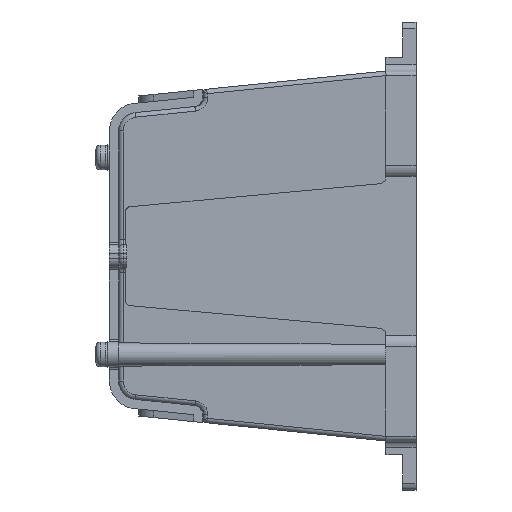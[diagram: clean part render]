
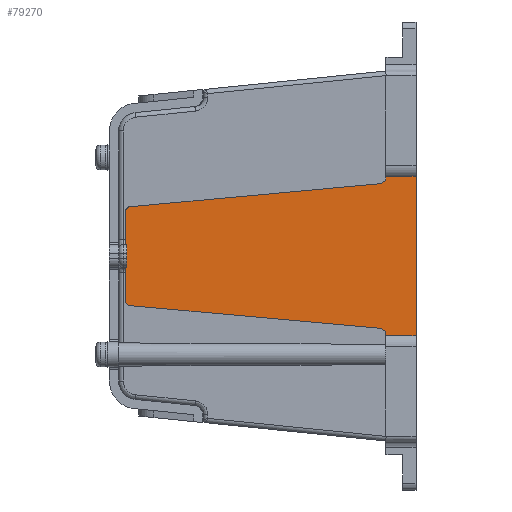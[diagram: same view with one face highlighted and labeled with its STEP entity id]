
A CAD part, left-side view. The second image highlights one B-rep face of the part: STEP entity #79270.
In plain terms, the highlighted planar face has unit normal (-1, 0, 0).
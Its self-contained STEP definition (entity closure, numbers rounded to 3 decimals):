
#2408=CIRCLE('',#83082,1.5);
#2409=CIRCLE('',#83086,1.);
#2416=CIRCLE('',#83138,1.);
#2417=CIRCLE('',#83142,1.5);
#11633=ORIENTED_EDGE('',*,*,#26116,.F.);
#11634=ORIENTED_EDGE('',*,*,#26117,.T.);
#11635=ORIENTED_EDGE('',*,*,#24835,.F.);
#11636=ORIENTED_EDGE('',*,*,#24841,.F.);
#11637=ORIENTED_EDGE('',*,*,#24844,.F.);
#11638=ORIENTED_EDGE('',*,*,#24847,.F.);
#11639=ORIENTED_EDGE('',*,*,#26118,.F.);
#11640=ORIENTED_EDGE('',*,*,#24851,.F.);
#11641=ORIENTED_EDGE('',*,*,#24684,.F.);
#11642=ORIENTED_EDGE('',*,*,#24679,.F.);
#11643=ORIENTED_EDGE('',*,*,#24768,.F.);
#11644=ORIENTED_EDGE('',*,*,#24770,.F.);
#11645=ORIENTED_EDGE('',*,*,#24773,.F.);
#11646=ORIENTED_EDGE('',*,*,#24776,.F.);
#11647=ORIENTED_EDGE('',*,*,#24781,.F.);
#11648=ORIENTED_EDGE('',*,*,#26119,.F.);
#24679=EDGE_CURVE('',#32454,#32452,#37618,.T.);
#24684=EDGE_CURVE('',#32452,#32457,#37621,.T.);
#24768=EDGE_CURVE('',#32510,#32454,#37674,.T.);
#24770=EDGE_CURVE('',#32512,#32510,#2408,.T.);
#24773=EDGE_CURVE('',#32514,#32512,#37677,.T.);
#24776=EDGE_CURVE('',#32516,#32514,#2409,.T.);
#24781=EDGE_CURVE('',#32519,#32516,#37682,.T.);
#24835=EDGE_CURVE('',#32549,#32550,#37711,.T.);
#24841=EDGE_CURVE('',#32555,#32549,#2416,.T.);
#24844=EDGE_CURVE('',#32557,#32555,#37717,.T.);
#24847=EDGE_CURVE('',#32559,#32557,#2417,.T.);
#24851=EDGE_CURVE('',#32457,#32561,#37721,.T.);
#26116=EDGE_CURVE('',#33430,#33431,#38546,.T.);
#26117=EDGE_CURVE('',#33430,#32550,#38547,.T.);
#26118=EDGE_CURVE('',#32561,#32559,#38548,.T.);
#26119=EDGE_CURVE('',#33431,#32519,#38549,.T.);
#32452=VERTEX_POINT('',#109103);
#32454=VERTEX_POINT('',#109107);
#32457=VERTEX_POINT('',#109118);
#32510=VERTEX_POINT('',#109321);
#32512=VERTEX_POINT('',#109326);
#32514=VERTEX_POINT('',#109332);
#32516=VERTEX_POINT('',#109338);
#32519=VERTEX_POINT('',#109347);
#32549=VERTEX_POINT('',#109510);
#32550=VERTEX_POINT('',#109511);
#32555=VERTEX_POINT('',#109522);
#32557=VERTEX_POINT('',#109528);
#32559=VERTEX_POINT('',#109534);
#32561=VERTEX_POINT('',#109540);
#33430=VERTEX_POINT('',#112767);
#33431=VERTEX_POINT('',#112768);
#37618=LINE('',#109108,#42341);
#37621=LINE('',#109117,#42344);
#37674=LINE('',#109322,#42397);
#37677=LINE('',#109333,#42400);
#37682=LINE('',#109348,#42405);
#37711=LINE('',#109509,#42434);
#37717=LINE('',#109529,#42440);
#37721=LINE('',#109542,#42444);
#38546=LINE('',#112766,#43269);
#38547=LINE('',#112769,#43270);
#38548=LINE('',#112770,#43271);
#38549=LINE('',#112771,#43272);
#42341=VECTOR('',#91923,1000.);
#42344=VECTOR('',#91934,1000.);
#42397=VECTOR('',#92099,1000.);
#42400=VECTOR('',#92110,1000.);
#42405=VECTOR('',#92125,1000.);
#42434=VECTOR('',#92246,1000.);
#42440=VECTOR('',#92262,1000.);
#42444=VECTOR('',#92276,1000.);
#43269=VECTOR('',#94773,1000.);
#43270=VECTOR('',#94774,1000.);
#43271=VECTOR('',#94775,1000.);
#43272=VECTOR('',#94776,1000.);
#47317=EDGE_LOOP('',(#11633,#11634,#11635,#11636,#11637,#11638,#11639,#11640,
#11641,#11642,#11643,#11644,#11645,#11646,#11647,#11648));
#51070=FACE_BOUND('',#47317,.T.);
#54020=PLANE('',#83981);
#79270=ADVANCED_FACE('',(#51070),#54020,.F.);
#83082=AXIS2_PLACEMENT_3D('',#109327,#92103,#92104);
#83086=AXIS2_PLACEMENT_3D('',#109339,#92115,#92116);
#83138=AXIS2_PLACEMENT_3D('',#109523,#92255,#92256);
#83142=AXIS2_PLACEMENT_3D('',#109535,#92267,#92268);
#83981=AXIS2_PLACEMENT_3D('',#112765,#94771,#94772);
#91923=DIRECTION('',(0.,-1.,0.));
#91934=DIRECTION('',(0.,0.,-1.));
#92099=DIRECTION('',(0.,0.,1.));
#92103=DIRECTION('',(-1.,0.,0.));
#92104=DIRECTION('',(0.,1.,0.));
#92110=DIRECTION('',(0.,-0.996,0.092));
#92115=DIRECTION('',(1.,0.,0.));
#92116=DIRECTION('',(0.,1.,0.));
#92125=DIRECTION('',(0.,0.,1.));
#92246=DIRECTION('',(0.,0.,1.));
#92255=DIRECTION('',(1.,0.,0.));
#92256=DIRECTION('',(0.,-1.,0.));
#92262=DIRECTION('',(0.,0.996,0.09));
#92267=DIRECTION('',(-1.,0.,0.));
#92268=DIRECTION('',(0.,1.,0.));
#92276=DIRECTION('',(0.,1.,0.));
#94771=DIRECTION('',(1.,0.,0.));
#94772=DIRECTION('',(0.,0.,-1.));
#94773=DIRECTION('',(0.,0.,1.));
#94774=DIRECTION('',(0.,1.,0.));
#94775=DIRECTION('',(0.,0.,1.));
#94776=DIRECTION('',(0.,1.,0.));
#109103=CARTESIAN_POINT('',(-74.1,0.,17.2));
#109107=CARTESIAN_POINT('',(-74.1,6.5,17.2));
#109108=CARTESIAN_POINT('',(-74.1,0.,17.2));
#109117=CARTESIAN_POINT('',(-74.1,0.,-17.2));
#109118=CARTESIAN_POINT('',(-74.1,0.,-17.2));
#109321=CARTESIAN_POINT('',(-74.1,6.5,17.118));
#109322=CARTESIAN_POINT('',(-74.1,6.5,17.118));
#109326=CARTESIAN_POINT('',(-74.1,7.862,15.624));
#109327=CARTESIAN_POINT('',(-74.1,8.,17.118));
#109332=CARTESIAN_POINT('',(-74.1,61.892,10.647));
#109333=CARTESIAN_POINT('',(-74.1,7.862,15.624));
#109338=CARTESIAN_POINT('',(-74.1,62.8,9.651));
#109339=CARTESIAN_POINT('',(-74.1,61.8,9.651));
#109347=CARTESIAN_POINT('',(-74.1,62.8,2.5));
#109348=CARTESIAN_POINT('',(-74.1,62.8,-9.723));
#109509=CARTESIAN_POINT('',(-74.1,62.8,-9.723));
#109510=CARTESIAN_POINT('',(-74.1,62.8,-9.723));
#109511=CARTESIAN_POINT('',(-74.1,62.8,-2.5));
#109522=CARTESIAN_POINT('',(-74.1,61.89,-10.719));
#109523=CARTESIAN_POINT('',(-74.1,61.8,-9.723));
#109528=CARTESIAN_POINT('',(-74.1,7.864,-15.626));
#109529=CARTESIAN_POINT('',(-74.1,7.864,-15.626));
#109534=CARTESIAN_POINT('',(-74.1,6.5,-17.12));
#109535=CARTESIAN_POINT('',(-74.1,8.,-17.12));
#109540=CARTESIAN_POINT('',(-74.1,6.5,-17.2));
#109542=CARTESIAN_POINT('',(-74.1,0.,-17.2));
#112765=CARTESIAN_POINT('',(-74.1,61.8,-9.723));
#112766=CARTESIAN_POINT('',(-74.1,62.6,-9.723));
#112767=CARTESIAN_POINT('',(-74.1,62.6,-2.5));
#112768=CARTESIAN_POINT('',(-74.1,62.6,2.5));
#112769=CARTESIAN_POINT('',(-74.1,62.6,-2.5));
#112770=CARTESIAN_POINT('',(-74.1,6.5,-17.12));
#112771=CARTESIAN_POINT('',(-74.1,62.6,2.5));
